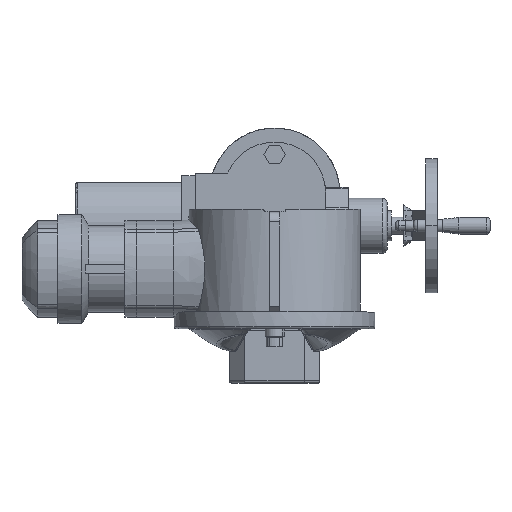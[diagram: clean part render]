
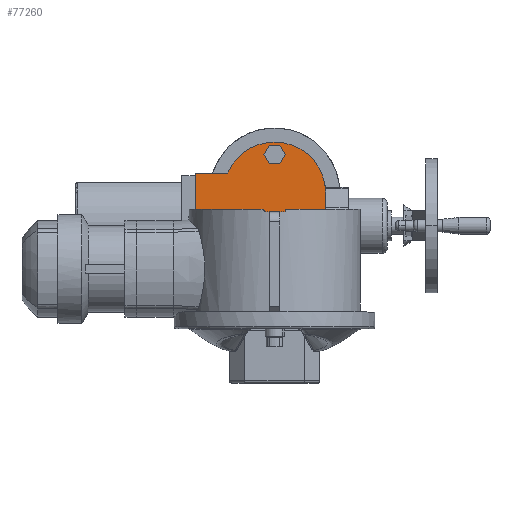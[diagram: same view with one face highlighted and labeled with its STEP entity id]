
A CAD part, top view. The second image highlights one B-rep face of the part: STEP entity #77260.
In plain terms, the highlighted planar face has unit normal (0, 0, 1).
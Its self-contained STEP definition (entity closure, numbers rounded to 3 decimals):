
#75930=CARTESIAN_POINT('',(0.,68.728,137.5))
;
#75940=DIRECTION('',(0.,0.,-1.));
#75950=DIRECTION('',(-1.,0.,0.));
#75960=AXIS2_PLACEMENT_3D('',#75930,#75940,#75950);
#75970=PLANE('',#75960);
#75980=CARTESIAN_POINT('',(61.,0.,137.5));
#75990=DIRECTION('',(0.,1.,0.));
#76000=VECTOR('',#75990,1.);
#76010=LINE('',#75980,#76000);
#76020=CARTESIAN_POINT('',(61.,-147.,137.5));
#76030=VERTEX_POINT('',#76020);
#76040=CARTESIAN_POINT('',(61.,0.,137.5));
#76050=VERTEX_POINT('',#76040);
#76060=EDGE_CURVE('',#76030,#76050,#76010,.T.);
#76070=ORIENTED_EDGE('',*,*,#76060,.T.);
#76080=CARTESIAN_POINT('',(0.,-147.,137.5));
#76090=DIRECTION('',(-1.,0.,0.));
#76100=VECTOR('',#76090,1.);
#76110=LINE('',#76080,#76100);
#76120=CARTESIAN_POINT('',(-61.,-147.,137.5));
#76130=VERTEX_POINT('',#76120);
#76140=EDGE_CURVE('',#76030,#76130,#76110,.T.);
#76150=ORIENTED_EDGE('',*,*,#76140,.F.);
#76160=CARTESIAN_POINT('',(-61.,0.,137.5));
#76170=DIRECTION('',(0.,1.,0.));
#76180=VECTOR('',#76170,1.);
#76190=LINE('',#76160,#76180);
#76200=CARTESIAN_POINT('',(-61.,-102.,137.5));
#76210=VERTEX_POINT('',#76200);
#76220=EDGE_CURVE('',#76130,#76210,#76190,.T.);
#76230=ORIENTED_EDGE('',*,*,#76220,.F.);
#76240=CARTESIAN_POINT('',(0.,-102.,137.5));
#76250=DIRECTION('',(-1.,0.,0.));
#76260=VECTOR('',#76250,1.);
#76270=LINE('',#76240,#76260);
#76280=CARTESIAN_POINT('',(-95.,-102.,137.5));
#76290=VERTEX_POINT('',#76280);
#76300=EDGE_CURVE('',#76210,#76290,#76270,.T.);
#76310=ORIENTED_EDGE('',*,*,#76300,.F.);
#76320=CARTESIAN_POINT('',(-95.,68.728,137.5));
#76330=DIRECTION('',(0.,-1.,0.));
#76340=VECTOR('',#76330,1.);
#76350=LINE('',#76320,#76340);
#76360=CARTESIAN_POINT('',(-95.,24.,137.5));
#76370=VERTEX_POINT('',#76360);
#76380=EDGE_CURVE('',#76370,#76290,#76350,.T.);
#76390=ORIENTED_EDGE('',*,*,#76380,.T.);
#76400=CARTESIAN_POINT('',(0.,24.,137.5));
#76410=DIRECTION('',(1.,0.,0.));
#76420=VECTOR('',#76410,1.);
#76430=LINE('',#76400,#76420);
#76440=CARTESIAN_POINT('',(-56.08,24.,137.5));
#76450=VERTEX_POINT('',#76440);
#76460=EDGE_CURVE('',#76370,#76450,#76430,.T.);
#76470=ORIENTED_EDGE('',*,*,#76460,.F.);
#76480=CARTESIAN_POINT('',(0.,0.,137.5));
#76490=DIRECTION('',(0.,0.,-1.));
#76500=DIRECTION('',(-1.,0.,0.));
#76510=AXIS2_PLACEMENT_3D('',#76480,#76490,#76500);
#76520=CIRCLE('',#76510,61.);
#76530=EDGE_CURVE('',#76450,#76050,#76520,.T.);
#76540=ORIENTED_EDGE('',*,*,#76530,.F.);
#76550=EDGE_LOOP('',(#76540,#76470,#76390,#76310,#76230,#76150,#76070));
#76560=FACE_OUTER_BOUND('',#76550,.T.);
#76570=CARTESIAN_POINT('',(-25.882,68.728,137.5));
#76580=DIRECTION('',(0.5,-0.866,-0.));
#76590=VECTOR('',#76580,1.);
#76600=LINE('',#76570,#76590);
#76610=CARTESIAN_POINT('',(-12.702,45.899,137.5));
#76620=VERTEX_POINT('',#76610);
#76630=CARTESIAN_POINT('',(-6.351,34.899,137.5));
#76640=VERTEX_POINT('',#76630);
#76650=EDGE_CURVE('',#76620,#76640,#76600,.T.);
#76660=ORIENTED_EDGE('',*,*,#76650,.F.);
#76670=CARTESIAN_POINT('',(0.,34.899,137.5))
;
#76680=DIRECTION('',(1.,0.,-0.));
#76690=VECTOR('',#76680,1.);
#76700=LINE('',#76670,#76690);
#76710=CARTESIAN_POINT('',(6.351,34.899,137.5));
#76720=VERTEX_POINT('',#76710);
#76730=EDGE_CURVE('',#76640,#76720,#76700,.T.);
#76740=ORIENTED_EDGE('',*,*,#76730,.F.);
#76750=CARTESIAN_POINT('',(25.882,68.728,137.5));
#76760=DIRECTION('',(0.5,0.866,0.));
#76770=VECTOR('',#76760,1.);
#76780=LINE('',#76750,#76770);
#76790=CARTESIAN_POINT('',(12.702,45.899,137.5));
#76800=VERTEX_POINT('',#76790);
#76810=EDGE_CURVE('',#76720,#76800,#76780,.T.);
#76820=ORIENTED_EDGE('',*,*,#76810,.F.);
#76830=CARTESIAN_POINT('',(-0.478,68.728,137.5));
#76840=DIRECTION('',(-0.5,0.866,0.));
#76850=VECTOR('',#76840,1.);
#76860=LINE('',#76830,#76850);
#76870=CARTESIAN_POINT('',(6.351,56.899,137.5));
#76880=VERTEX_POINT('',#76870);
#76890=EDGE_CURVE('',#76800,#76880,#76860,.T.);
#76900=ORIENTED_EDGE('',*,*,#76890,.F.);
#76910=CARTESIAN_POINT('',(0.,56.899,137.5))
;
#76920=DIRECTION('',(-1.,0.,0.));
#76930=VECTOR('',#76920,1.);
#76940=LINE('',#76910,#76930);
#76950=CARTESIAN_POINT('',(-6.351,56.899,137.5));
#76960=VERTEX_POINT('',#76950);
#76970=EDGE_CURVE('',#76880,#76960,#76940,.T.);
#76980=ORIENTED_EDGE('',*,*,#76970,.F.);
#76990=CARTESIAN_POINT('',(0.478,68.728,137.5));
#77000=DIRECTION('',(-0.5,-0.866,0.));
#77010=VECTOR('',#77000,1.);
#77020=LINE('',#76990,#77010);
#77030=EDGE_CURVE('',#76960,#76620,#77020,.T.);
#77040=ORIENTED_EDGE('',*,*,#77030,.F.);
#77050=EDGE_LOOP('',(#77040,#76980,#76900,#76820,#76740,#76660));
#77060=FACE_BOUND('',#77050,.T.);
#77070=CARTESIAN_POINT('',(0.,-85.,137.5));
#77080=DIRECTION('',(0.,0.,1.));
#77090=DIRECTION('',(1.,0.,0.));
#77100=AXIS2_PLACEMENT_3D('',#77070,#77080,#77090);
#77110=CIRCLE('',#77100,55.);
#77120=CARTESIAN_POINT('',(49.192,-60.399,137.5));
#77130=VERTEX_POINT('',#77120);
#77140=CARTESIAN_POINT('',(-55.,-85.,137.5));
#77150=VERTEX_POINT('',#77140);
#77160=EDGE_CURVE('',#77130,#77150,#77110,.T.);
#77170=ORIENTED_EDGE('',*,*,#77160,.F.);
#77180=CARTESIAN_POINT('',(55.,-85.,137.5));
#77190=VERTEX_POINT('',#77180);
#77200=EDGE_CURVE('',#77150,#77190,#77110,.T.);
#77210=ORIENTED_EDGE('',*,*,#77200,.F.);
#77220=EDGE_CURVE('',#77190,#77130,#77110,.T.);
#77230=ORIENTED_EDGE('',*,*,#77220,.F.);
#77240=EDGE_LOOP('',(#77230,#77210,#77170));
#77250=FACE_BOUND('',#77240,.T.);
#77260=ADVANCED_FACE('',(#76560,#77060,#77250),#75970,.F.);
